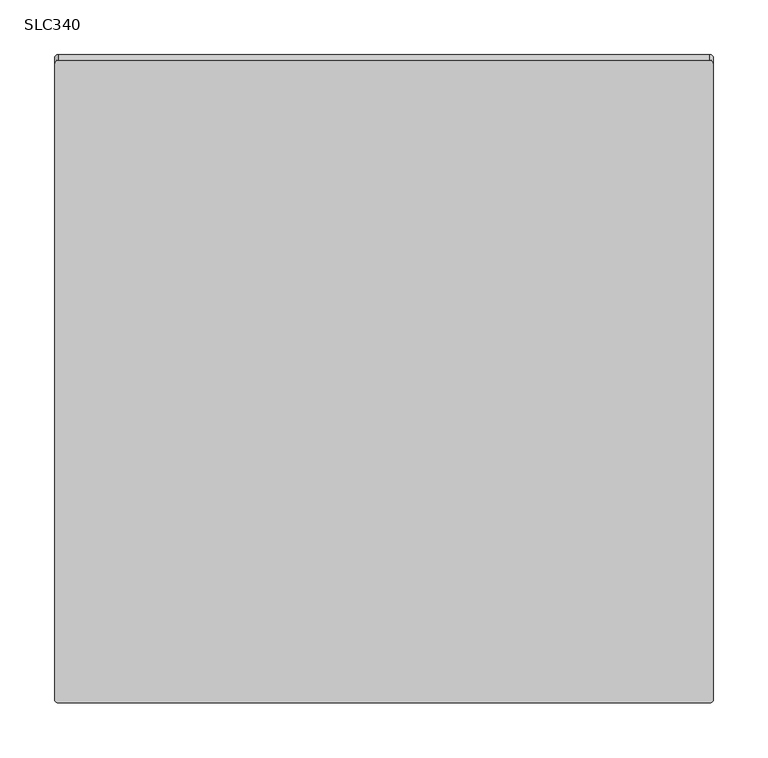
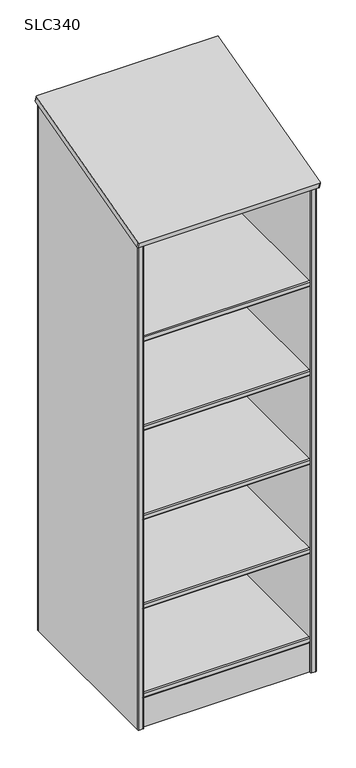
"""IFC4 building model written with IfcOpenShell, lengths in millimetres: furniture geometry, Stance_HC-Lotus-Wardrobe : SLC340."""

from ifc_helpers import new_model, si_unit, point, frame, frame_2d, origin, origin_with_axes, place, context, project, spatial, polyline, circle_curve, ellipse_curve, trimmed, segment, composite_curve, outline, extrude, source, transform, mapped, element, save
from ifc_brep_helpers import plane_surface, cylinder_surface, advanced_brep


def slc340_fd4518d1(model_context):
    return source(origin(), model_context, "Body", "SolidModel", [
        extrude(outline(composite_curve([segment(polyline([(-571.5, 1054.100003), (-25.4000008, 1054.100003), (-25.4000008, 1035.050003), (-571.5, 1035.050003)]), True, "CONTINUOUS"), segment(trimmed(circle_curve(frame_2d((-571.5, 1038.225003)), 3.175), [point((-571.5, 1035.050003))], [point((-574.675, 1038.225003))], False, "CARTESIAN"), True, "CONTINUOUS"), segment(polyline([(-574.675, 1038.225003), (-574.675, 1050.925003)]), True, "CONTINUOUS"), segment(trimmed(circle_curve(frame_2d((-571.5, 1050.925003)), 3.175), [point((-574.675, 1050.925003))], [point((-571.5, 1054.100003))], False, "CARTESIAN"), True, "CONTINUOUS")], self_intersect=False)), frame((25.4000008, 0.0, 0.0), z_axis=(1.0, 0.0, 0.0), x_axis=(0.0, 1.0, 0.0)), (0.0, 0.0, 1.0), 552.4499871),
        extrude(outline(composite_curve([segment(polyline([(-571.5, 742.950003), (-25.4000008, 742.950003), (-25.4000008, 723.900003), (-571.5, 723.900003)]), True, "CONTINUOUS"), segment(trimmed(circle_curve(frame_2d((-571.5, 727.075003)), 3.175), [point((-571.5, 723.900003))], [point((-574.675, 727.075003))], False, "CARTESIAN"), True, "CONTINUOUS"), segment(polyline([(-574.675, 727.075003), (-574.675, 739.775003)]), True, "CONTINUOUS"), segment(trimmed(circle_curve(frame_2d((-571.5, 739.775003)), 3.175), [point((-574.675, 739.775003))], [point((-571.5, 742.950003))], False, "CARTESIAN"), True, "CONTINUOUS")], self_intersect=False)), frame((25.4000008, 0.0, 0.0), z_axis=(1.0, 0.0, 0.0), x_axis=(0.0, 1.0, 0.0)), (0.0, 0.0, 1.0), 552.4499871),
        extrude(outline(composite_curve([segment(polyline([(-571.5, 431.800003), (-25.4000008, 431.800003), (-25.4000008, 412.750003), (-571.5, 412.750003)]), True, "CONTINUOUS"), segment(trimmed(circle_curve(frame_2d((-571.5, 415.925003)), 3.175), [point((-571.5, 412.750003))], [point((-574.675, 415.925003))], False, "CARTESIAN"), True, "CONTINUOUS"), segment(polyline([(-574.675, 415.925003), (-574.675, 428.625003)]), True, "CONTINUOUS"), segment(trimmed(circle_curve(frame_2d((-571.5, 428.625003)), 3.175), [point((-574.675, 428.625003))], [point((-571.5, 431.800003))], False, "CARTESIAN"), True, "CONTINUOUS")], self_intersect=False)), frame((25.4000008, 0.0, 0.0), z_axis=(1.0, 0.0, 0.0), x_axis=(0.0, 1.0, 0.0)), (0.0, 0.0, 1.0), 552.4499871),
        extrude(outline(composite_curve([segment(polyline([(-571.5, 1365.250003), (-25.4000008, 1365.250003), (-25.4000008, 1346.200003), (-571.5, 1346.200003)]), True, "CONTINUOUS"), segment(trimmed(circle_curve(frame_2d((-571.5, 1349.375003)), 3.175), [point((-571.5, 1346.200003))], [point((-574.675, 1349.375003))], False, "CARTESIAN"), True, "CONTINUOUS"), segment(polyline([(-574.675, 1349.375003), (-574.675, 1362.075003)]), True, "CONTINUOUS"), segment(trimmed(circle_curve(frame_2d((-571.5, 1362.075003)), 3.175), [point((-574.675, 1362.075003))], [point((-571.5, 1365.250003))], False, "CARTESIAN"), True, "CONTINUOUS")], self_intersect=False)), frame((25.4000008, 0.0, 0.0), z_axis=(1.0, 0.0, 0.0), x_axis=(0.0, 1.0, 0.0)), (0.0, 0.0, 1.0), 552.4499871),
        extrude(outline(composite_curve([segment(polyline([(-571.5, 120.650003), (-25.4000008, 120.650003), (-25.4000008, 101.600003), (-571.5, 101.600003)]), True, "CONTINUOUS"), segment(trimmed(circle_curve(frame_2d((-571.5, 104.775003)), 3.175), [point((-571.5, 101.600003))], [point((-574.675, 104.775003))], False, "CARTESIAN"), True, "CONTINUOUS"), segment(polyline([(-574.675, 104.775003), (-574.675, 117.475003)]), True, "CONTINUOUS"), segment(trimmed(circle_curve(frame_2d((-571.5, 117.475003)), 3.175), [point((-574.675, 117.475003))], [point((-571.5, 120.650003))], False, "CARTESIAN"), True, "CONTINUOUS")], self_intersect=False)), frame((25.4000008, 0.0, 0.0), z_axis=(1.0, 0.0, 0.0), x_axis=(0.0, 1.0, 0.0)), (0.0, 0.0, 1.0), 552.4499871),
        advanced_brep(
        [(22.2250008, -3.1750001, 0.0), (25.4000008, -6.3500001, 0.0), (25.4000008, -577.8499879, 0.0), (22.2250008, -581.0249879, 0.0), (9.5250002, -581.0249879, 0.0), (6.3500002, -577.8499879, 0.0), (6.3500002, -6.3500001, 0.0), (9.5250002, -3.1750001, 0.0), (22.2250008, -3.1750001, 1847.9779876), (25.4000008, -6.3500001, 1847.1294883), (25.4000008, -577.8499879, 1694.3996213), (22.2250008, -581.0249879, 1693.5511221), (9.5250002, -581.0249879, 1693.5511221), (6.3500002, -577.8499879, 1694.3996213), (6.3500002, -6.3500001, 1847.1294883), (9.5250002, -3.1750001, 1847.9779876)],
        [
            (0, 1, circle_curve(frame((22.2250008, -6.3500001, 0.0), z_axis=(0.0, 0.0, -1.0), x_axis=(1.0, 0.0, 0.0)), 3.175)),
            (1, 2),
            (2, 3, circle_curve(frame((22.2250008, -577.8499879, 0.0), z_axis=(0.0, 0.0, -1.0), x_axis=(1.0, 0.0, 0.0)), 3.175)),
            (3, 4),
            (4, 5, circle_curve(frame((9.5250002, -577.8499879, 0.0), z_axis=(0.0, 0.0, -1.0), x_axis=(1.0, 0.0, 0.0)), 3.175)),
            (5, 6),
            (6, 7, circle_curve(frame((9.5250002, -6.3500001, 0.0), z_axis=(0.0, 0.0, -1.0), x_axis=(1.0, 0.0, 0.0)), 3.175)),
            (7, 0),
            (0, 8),
            (8, 9, ellipse_curve(frame((22.2250008, -6.3500001, 1847.1294883), z_axis=(0.0, 0.2581832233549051, -0.9660959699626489), x_axis=(0.0, 0.9660959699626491, 0.2581832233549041)), 3.286423, 3.175)),
            (9, 1),
            (9, 10),
            (10, 2),
            (10, 11, ellipse_curve(frame((22.2250008, -577.8499879, 1694.3996213), z_axis=(0.0, 0.2581832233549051, -0.9660959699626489), x_axis=(0.0, 0.9660959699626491, 0.2581832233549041)), 3.286423, 3.175)),
            (11, 3),
            (11, 12),
            (12, 4),
            (12, 13, ellipse_curve(frame((9.5250002, -577.8499879, 1694.3996213), z_axis=(0.0, 0.2581832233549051, -0.9660959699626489), x_axis=(0.0, 0.9660959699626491, 0.2581832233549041)), 3.286423, 3.175)),
            (13, 5),
            (13, 14),
            (14, 6),
            (14, 15, ellipse_curve(frame((9.5250002, -6.3500001, 1847.1294883), z_axis=(0.0, 0.2581832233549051, -0.9660959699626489), x_axis=(0.0, 0.9660959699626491, 0.2581832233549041)), 3.286423, 3.175)),
            (15, 7),
            (15, 8),
        ],
        [
            plane_surface(frame((6.3500002, -3.1750001, 0.0), z_axis=(0.0, 0.0, -1.0), x_axis=(1.0, 0.0, 0.0))),
            cylinder_surface(frame((22.2250008, -6.3500001, 0.0), z_axis=(0.0, 0.0, 1.0), x_axis=(1.0, 0.0, 0.0)), 3.175),
            plane_surface(frame((25.4000008, -577.8499879, 1866.9), z_axis=(1.0, 0.0, 0.0), x_axis=(0.0, 0.0, -1.0))),
            cylinder_surface(frame((22.2250008, -577.8499879, 0.0), z_axis=(0.0, 0.0, 1.0), x_axis=(1.0, 0.0, 0.0)), 3.175),
            plane_surface(frame((9.5250002, -581.0249879, 1866.9), z_axis=(0.0, -1.0, 0.0), x_axis=(0.0, 0.0, -1.0))),
            cylinder_surface(frame((9.5250002, -577.8499879, 0.0), z_axis=(0.0, 0.0, 1.0), x_axis=(1.0, 0.0, 0.0)), 3.175),
            plane_surface(frame((6.3500002, -6.3500001, 1866.9), z_axis=(-1.0, 0.0, 0.0), x_axis=(0.0, 0.0, -1.0))),
            cylinder_surface(frame((9.5250002, -6.3500001, 0.0), z_axis=(0.0, 0.0, 1.0), x_axis=(1.0, 0.0, 0.0)), 3.175),
            plane_surface(frame((22.2250008, -3.1750001, 1866.9), z_axis=(0.0, 1.0, 0.0), x_axis=(0.0, 0.0, -1.0))),
            plane_surface(frame((603.25, -596.9, 1689.3086224), z_axis=(0.0, -0.2581832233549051, 0.9660959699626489), x_axis=(-1.0, 0.0, 0.0))),
        ],
        [
            (0, [[1, 2, 3, 4, 5, 6, 7, 8]]),
            (1, [[-1, 9, 10, 11]]),
            (2, [[-2, -11, 12, 13]]),
            (3, [[-3, -13, 14, 15]]),
            (4, [[-4, -15, 16, 17]]),
            (5, [[-5, -17, 18, 19]]),
            (6, [[-6, -19, 20, 21]]),
            (7, [[-7, -21, 22, 23]]),
            (8, [[-8, -23, 24, -9]]),
            (9, [[-10, -24, -22, -20, -18, -16, -14, -12]]),
        ],
    ),
        advanced_brep(
        [(581.025, -3.1750001, 0.0), (593.7250006, -3.1750001, 0.0), (596.9000006, -6.3500001, 0.0), (596.9000006, -577.8499879, 0.0), (593.7250006, -581.0249879, 0.0), (581.025, -581.0249879, 0.0), (577.85, -577.8499879, 0.0), (577.85, -6.3500001, 0.0), (581.025, -3.1750001, 1847.9779876), (593.7250006, -3.1750001, 1847.9779876), (596.9000006, -6.3500001, 1847.1294883), (596.9000006, -577.8499879, 1694.3996213), (593.7250006, -581.0249879, 1693.5511221), (581.025, -581.0249879, 1693.5511221), (577.85, -577.8499879, 1694.3996213), (577.85, -6.3500001, 1847.1294883)],
        [
            (0, 1),
            (1, 2, circle_curve(frame((593.7250006, -6.3500001, 0.0), z_axis=(0.0, 0.0, -1.0), x_axis=(1.0, 0.0, 0.0)), 3.175)),
            (2, 3),
            (3, 4, circle_curve(frame((593.7250006, -577.8499879, 0.0), z_axis=(0.0, 0.0, -1.0), x_axis=(1.0, 0.0, 0.0)), 3.175)),
            (4, 5),
            (5, 6, circle_curve(frame((581.025, -577.8499879, 0.0), z_axis=(0.0, 0.0, -1.0), x_axis=(1.0, 0.0, 0.0)), 3.175)),
            (6, 7),
            (7, 0, circle_curve(frame((581.025, -6.3500001, 0.0), z_axis=(0.0, 0.0, -1.0), x_axis=(1.0, 0.0, 0.0)), 3.175)),
            (0, 8),
            (8, 9),
            (9, 1),
            (9, 10, ellipse_curve(frame((593.7250006, -6.3500001, 1847.1294883), z_axis=(0.0, 0.2581832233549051, -0.9660959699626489), x_axis=(0.0, 0.9660959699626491, 0.2581832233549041)), 3.286423, 3.175)),
            (10, 2),
            (10, 11),
            (11, 3),
            (11, 12, ellipse_curve(frame((593.7250006, -577.8499879, 1694.3996213), z_axis=(0.0, 0.2581832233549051, -0.9660959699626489), x_axis=(0.0, 0.9660959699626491, 0.2581832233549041)), 3.286423, 3.175)),
            (12, 4),
            (12, 13),
            (13, 5),
            (13, 14, ellipse_curve(frame((581.025, -577.8499879, 1694.3996213), z_axis=(0.0, 0.2581832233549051, -0.9660959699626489), x_axis=(0.0, 0.9660959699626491, 0.2581832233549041)), 3.286423, 3.175)),
            (14, 6),
            (14, 15),
            (15, 7),
            (15, 8, ellipse_curve(frame((581.025, -6.3500001, 1847.1294883), z_axis=(0.0, 0.2581832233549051, -0.9660959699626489), x_axis=(0.0, 0.9660959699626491, 0.2581832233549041)), 3.286423, 3.175)),
        ],
        [
            plane_surface(frame((6.3500002, -3.1750001, 0.0), z_axis=(0.0, 0.0, -1.0), x_axis=(1.0, 0.0, 0.0))),
            plane_surface(frame((593.7250006, -3.1750001, 1866.9), z_axis=(0.0, 1.0, 0.0), x_axis=(0.0, 0.0, -1.0))),
            cylinder_surface(frame((593.7250006, -6.3500001, 0.0), z_axis=(0.0, 0.0, 1.0), x_axis=(1.0, 0.0, 0.0)), 3.175),
            plane_surface(frame((596.9000006, -577.8499879, 1866.9), z_axis=(1.0, 0.0, 0.0), x_axis=(0.0, 0.0, -1.0))),
            cylinder_surface(frame((593.7250006, -577.8499879, 0.0), z_axis=(0.0, 0.0, 1.0), x_axis=(1.0, 0.0, 0.0)), 3.175),
            plane_surface(frame((581.025, -581.0249879, 1866.9), z_axis=(0.0, -1.0, 0.0), x_axis=(0.0, 0.0, -1.0))),
            cylinder_surface(frame((581.025, -577.8499879, 0.0), z_axis=(0.0, 0.0, 1.0), x_axis=(1.0, 0.0, 0.0)), 3.175),
            plane_surface(frame((577.85, -6.3500001, 1866.9), z_axis=(-1.0, 0.0, 0.0), x_axis=(0.0, 0.0, -1.0))),
            cylinder_surface(frame((581.025, -6.3500001, 0.0), z_axis=(0.0, 0.0, 1.0), x_axis=(1.0, 0.0, 0.0)), 3.175),
            plane_surface(frame((603.25, -596.9, 1689.3086224), z_axis=(0.0, -0.2581832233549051, 0.9660959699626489), x_axis=(-1.0, 0.0, 0.0))),
        ],
        [
            (0, [[1, 2, 3, 4, 5, 6, 7, 8]]),
            (1, [[-1, 9, 10, 11]]),
            (2, [[-2, -11, 12, 13]]),
            (3, [[-3, -13, 14, 15]]),
            (4, [[-4, -15, 16, 17]]),
            (5, [[-5, -17, 18, 19]]),
            (6, [[-6, -19, 20, 21]]),
            (7, [[-7, -21, 22, 23]]),
            (8, [[-8, -23, 24, -9]]),
            (9, [[-10, -24, -22, -20, -18, -16, -14, -12]]),
        ],
    ),
        extrude(outline(composite_curve([segment(trimmed(circle_curve(frame_2d((0.0, -3.175)), 3.175), [point((0.0, -6.35))], [point((-3.175, -3.175))], False, "CARTESIAN"), True, "CONTINUOUS"), segment(polyline([(-3.175, -3.175), (-3.175, 600.0751694)]), True, "CONTINUOUS"), segment(trimmed(circle_curve(frame_2d((0.0, 600.0751694)), 3.175), [point((-3.175, 600.0751694))], [point((0.0, 603.2501693))], False, "CARTESIAN"), True, "CONTINUOUS"), segment(polyline([(0.0, 603.2501693), (596.9, 603.2501693)]), True, "CONTINUOUS"), segment(trimmed(circle_curve(frame_2d((596.9, 600.0751694)), 3.175), [point((596.9, 603.2501693))], [point((600.075, 600.0751694))], False, "CARTESIAN"), True, "CONTINUOUS"), segment(polyline([(600.075, 600.0751694), (600.075, -3.175)]), True, "CONTINUOUS"), segment(trimmed(circle_curve(frame_2d((596.9, -3.175)), 3.175), [point((600.075, -3.175))], [point((596.9, -6.35))], False, "CARTESIAN"), True, "CONTINUOUS"), segment(polyline([(596.9, -6.35), (0.0, -6.35)]), True, "CONTINUOUS")], self_intersect=False)), frame((600.075, -5.2152013, 1847.4204184), z_axis=(0.0, -0.25814463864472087, 0.9661062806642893), x_axis=(-1.0, 0.0, 0.0)), (0.0, 0.0, 1.0), 19.2428064),
        extrude(outline(polyline([(25.4000008, -554.0375), (577.85, -554.0375), (577.85, -573.0875), (25.4000008, -573.0875), (25.4000008, -554.0375)])), origin_with_axes(), (0.0, 0.0, 1.0), 101.600003),
        extrude(outline(polyline([(577.85, -19.05), (25.4000008, -19.05), (25.4000008, 0.0), (577.85, 0.0), (577.85, -19.05)])), origin_with_axes(), (0.0, 0.0, 1.0), 1847.8500121),
    ])


if __name__ == "__main__":
    model = new_model("IFC4")
    model_context = context("Model", 3, world=origin())
    ifc_project = project(units=[si_unit("LENGTHUNIT", "METRE", prefix="MILLI")], contexts=[model_context])
    site = spatial("IfcSite", under=ifc_project)
    building = spatial("IfcBuilding", under=site)
    placement = place(None, origin())
    slc340_shape = slc340_fd4518d1(model_context)
    element("IfcFurniture", 1, ObjectType="Stance_HC-Lotus-Wardrobe : SLC340", at=placement, inside=building, context=model_context, shape_type="MappedRepresentation", body=[
        mapped(slc340_shape, transform((0.0, 0.0, 0.0), x_axis=(1.0, 0.0, 0.0), y_axis=(0.0, 1.0, 0.0), z_axis=(0.0, 0.0, 1.0))),
    ])
    save(model, "model.ifc")
